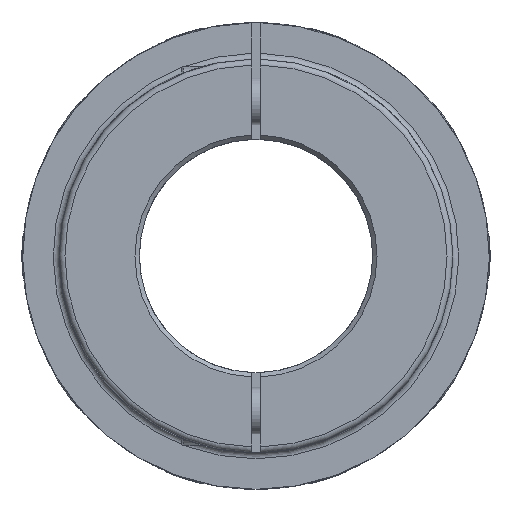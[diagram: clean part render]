
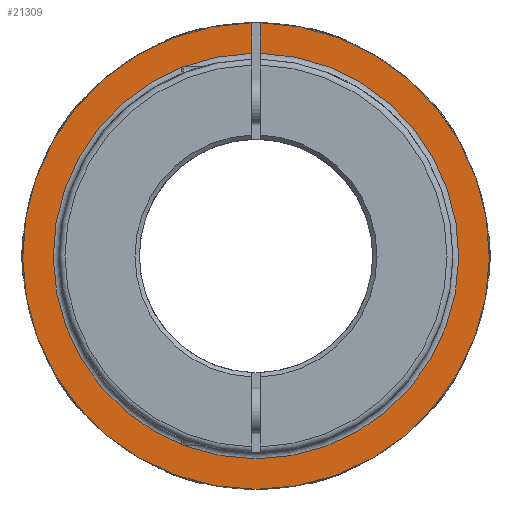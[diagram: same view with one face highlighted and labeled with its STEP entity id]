
A CAD part, left-side view. The second image highlights one B-rep face of the part: STEP entity #21309.
In plain terms, the highlighted planar face has unit normal (-1, 0, 0).
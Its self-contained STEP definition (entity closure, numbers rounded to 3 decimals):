
#855 = CIRCLE ( 'NONE', #12815, 80. ) ;
#1179 = VERTEX_POINT ( 'NONE', #9884 ) ;
#2378 = VERTEX_POINT ( 'NONE', #8896 ) ;
#2596 = VERTEX_POINT ( 'NONE', #19010 ) ;
#3331 = VECTOR ( 'NONE', #22214, 1000. ) ;
#3616 = ORIENTED_EDGE ( 'NONE', *, *, #8356, .F. ) ;
#3875 = CIRCLE ( 'NONE', #17693, 69.5 ) ;
#4548 = CARTESIAN_POINT ( 'NONE',  ( -52.1, 0., 0. ) ) ;
#6058 = ORIENTED_EDGE ( 'NONE', *, *, #12206, .T. ) ;
#6429 = DIRECTION ( 'NONE',  ( 0., 0., 1. ) ) ;
#6643 = CARTESIAN_POINT ( 'NONE',  ( -52.1, 0., 0. ) ) ;
#6816 = LINE ( 'NONE', #22288, #3331 ) ;
#6961 = CARTESIAN_POINT ( 'NONE',  ( -52.1, 1.5, 79.986 ) ) ;
#7482 = LINE ( 'NONE', #18623, #8949 ) ;
#7768 = EDGE_CURVE ( 'NONE', #16185, #1179, #855, .T. ) ;
#7957 = PLANE ( 'NONE',  #22155 ) ;
#8356 = EDGE_CURVE ( 'NONE', #22783, #2378, #7482, .T. ) ;
#8629 = AXIS2_PLACEMENT_3D ( 'NONE', #20934, #17449, #6429 ) ;
#8681 = ORIENTED_EDGE ( 'NONE', *, *, #21036, .T. ) ;
#8686 = EDGE_LOOP ( 'NONE', ( #6058, #16494, #8681, #11964, #3616 ) ) ;
#8896 = CARTESIAN_POINT ( 'NONE',  ( -52.1, 1.5, 69.484 ) ) ;
#8949 = VECTOR ( 'NONE', #14946, 1000. ) ;
#9141 = FACE_OUTER_BOUND ( 'NONE', #8686, .T. ) ;
#9858 = EDGE_CURVE ( 'NONE', #2596, #2378, #3875, .T. ) ;
#9884 = CARTESIAN_POINT ( 'NONE',  ( -52.1, -1.5, 79.986 ) ) ;
#10067 = DIRECTION ( 'NONE',  ( -1., 0., 0. ) ) ;
#10191 = DIRECTION ( 'NONE',  ( 0., 0., 1. ) ) ;
#11798 = CARTESIAN_POINT ( 'NONE',  ( -52.1, 0., 0. ) ) ;
#11964 = ORIENTED_EDGE ( 'NONE', *, *, #9858, .T. ) ;
#12206 = EDGE_CURVE ( 'NONE', #22783, #16185, #20423, .T. ) ;
#12815 = AXIS2_PLACEMENT_3D ( 'NONE', #11798, #19337, #10191 ) ;
#14946 = DIRECTION ( 'NONE',  ( 0., 0., -1. ) ) ;
#15615 = DIRECTION ( 'NONE',  ( 0., 0., 1. ) ) ;
#16185 = VERTEX_POINT ( 'NONE', #23974 ) ;
#16494 = ORIENTED_EDGE ( 'NONE', *, *, #7768, .T. ) ;
#17213 = DIRECTION ( 'NONE',  ( 1., 0., 0. ) ) ;
#17449 = DIRECTION ( 'NONE',  ( -1., 0., 0. ) ) ;
#17693 = AXIS2_PLACEMENT_3D ( 'NONE', #4548, #17213, #15615 ) ;
#18623 = CARTESIAN_POINT ( 'NONE',  ( -52.1, 1.5, 0. ) ) ;
#19010 = CARTESIAN_POINT ( 'NONE',  ( -52.1, -1.5, 69.484 ) ) ;
#19337 = DIRECTION ( 'NONE',  ( -1., 0., 0. ) ) ;
#20423 = CIRCLE ( 'NONE', #8629, 80. ) ;
#20934 = CARTESIAN_POINT ( 'NONE',  ( -52.1, 0., 0. ) ) ;
#20995 = DIRECTION ( 'NONE',  ( 0., 0., 1. ) ) ;
#21036 = EDGE_CURVE ( 'NONE', #1179, #2596, #6816, .T. ) ;
#21309 = ADVANCED_FACE ( 'NONE', ( #9141 ), #7957, .T. ) ;
#22155 = AXIS2_PLACEMENT_3D ( 'NONE', #6643, #10067, #20995 ) ;
#22214 = DIRECTION ( 'NONE',  ( 0., 0., -1. ) ) ;
#22288 = CARTESIAN_POINT ( 'NONE',  ( -52.1, -1.5, 0. ) ) ;
#22783 = VERTEX_POINT ( 'NONE', #6961 ) ;
#23974 = CARTESIAN_POINT ( 'NONE',  ( -52.1, 0., -80. ) ) ;
